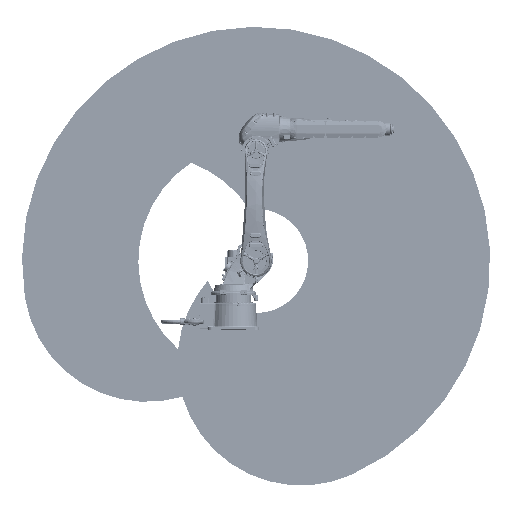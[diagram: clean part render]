
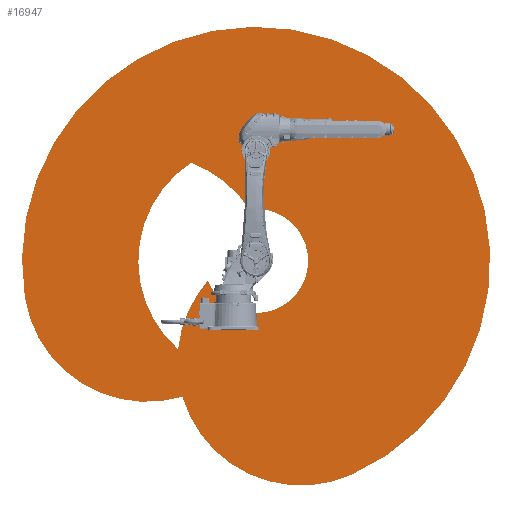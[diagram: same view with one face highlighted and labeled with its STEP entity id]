
A CAD part, front view. The second image highlights one B-rep face of the part: STEP entity #16947.
In plain terms, the highlighted planar face has unit normal (0, 1, 0).
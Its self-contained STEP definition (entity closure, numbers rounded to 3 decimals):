
#5696=FACE_BOUND('',#31414,.T.);
#5697=FACE_BOUND('',#31415,.T.);
#16947=ADVANCED_FACE('',(#5696,#5697),#19119,.T.);
#19119=PLANE('',#106047);
#31414=EDGE_LOOP('',(#74157,#74158,#74159));
#31415=EDGE_LOOP('',(#74160,#74161,#74162,#74163));
#47116=CIRCLE('',#106040,1652.983);
#47117=CIRCLE('',#106041,872.983);
#47118=CIRCLE('',#106042,872.983);
#47119=CIRCLE('',#106043,872.983);
#47120=CIRCLE('',#106044,831.72);
#47121=CIRCLE('',#106045,872.983);
#47122=CIRCLE('',#106046,367.665);
#74157=ORIENTED_EDGE('',*,*,#96467,.T.);
#74158=ORIENTED_EDGE('',*,*,#96468,.T.);
#74159=ORIENTED_EDGE('',*,*,#96469,.T.);
#74160=ORIENTED_EDGE('',*,*,#96470,.T.);
#74161=ORIENTED_EDGE('',*,*,#96471,.T.);
#74162=ORIENTED_EDGE('',*,*,#96472,.T.);
#74163=ORIENTED_EDGE('',*,*,#96473,.T.);
#82943=VERTEX_POINT('',#232143);
#82944=VERTEX_POINT('',#232144);
#82945=VERTEX_POINT('',#232146);
#82946=VERTEX_POINT('',#232149);
#82947=VERTEX_POINT('',#232150);
#82948=VERTEX_POINT('',#232152);
#82949=VERTEX_POINT('',#232154);
#96467=EDGE_CURVE('',#82943,#82944,#47116,.T.);
#96468=EDGE_CURVE('',#82944,#82945,#47117,.T.);
#96469=EDGE_CURVE('',#82945,#82943,#47118,.T.);
#96470=EDGE_CURVE('',#82946,#82947,#47119,.T.);
#96471=EDGE_CURVE('',#82947,#82948,#47120,.T.);
#96472=EDGE_CURVE('',#82948,#82949,#47121,.T.);
#96473=EDGE_CURVE('',#82949,#82946,#47122,.T.);
#106040=AXIS2_PLACEMENT_3D('',#232142,#130507,#130508);
#106041=AXIS2_PLACEMENT_3D('',#232145,#130509,#130510);
#106042=AXIS2_PLACEMENT_3D('',#232147,#130511,#130512);
#106043=AXIS2_PLACEMENT_3D('',#232148,#130513,#130514);
#106044=AXIS2_PLACEMENT_3D('',#232151,#130515,#130516);
#106045=AXIS2_PLACEMENT_3D('',#232153,#130517,#130518);
#106046=AXIS2_PLACEMENT_3D('',#232155,#130519,#130520);
#106047=AXIS2_PLACEMENT_3D('',#232156,#130521,#130522);
#130507=DIRECTION('',(0.,1.,0.));
#130508=DIRECTION('',(1.,0.,0.));
#130509=DIRECTION('',(0.,1.,0.));
#130510=DIRECTION('',(1.,0.,0.));
#130511=DIRECTION('',(0.,1.,0.));
#130512=DIRECTION('',(1.,0.,0.));
#130513=DIRECTION('',(0.,-1.,0.));
#130514=DIRECTION('',(1.,0.,0.));
#130515=DIRECTION('',(0.,-1.,0.));
#130516=DIRECTION('',(1.,0.,0.));
#130517=DIRECTION('',(0.,1.,0.));
#130518=DIRECTION('',(1.,0.,0.));
#130519=DIRECTION('',(0.,-1.,0.));
#130520=DIRECTION('',(1.,0.,0.));
#130521=DIRECTION('',(0.,1.,0.));
#130522=DIRECTION('',(0.,0.,-1.));
#232142=CARTESIAN_POINT('',(10648.259,1695.31,0.));
#232143=CARTESIAN_POINT('',(9015.626,1695.31,-258.584));
#232144=CARTESIAN_POINT('',(11320.588,1695.31,-1510.075));
#232145=CARTESIAN_POINT('',(10965.513,1695.31,-712.565));
#232146=CARTESIAN_POINT('',(10127.869,1695.31,-958.437));
#232147=CARTESIAN_POINT('',(9877.862,1695.31,-122.019));
#232148=CARTESIAN_POINT('',(9877.862,1695.31,-122.019));
#232149=CARTESIAN_POINT('',(10602.5,1695.31,364.806));
#232150=CARTESIAN_POINT('',(10189.201,1695.31,693.559));
#232151=CARTESIAN_POINT('',(10648.259,1695.31,0.));
#232152=CARTESIAN_POINT('',(10097.145,1695.31,-622.921));
#232153=CARTESIAN_POINT('',(10965.513,1695.31,-712.565));
#232154=CARTESIAN_POINT('',(10307.726,1695.31,-138.618));
#232155=CARTESIAN_POINT('',(10648.259,1695.31,0.));
#232156=CARTESIAN_POINT('',(10806.886,1695.31,-356.283));
